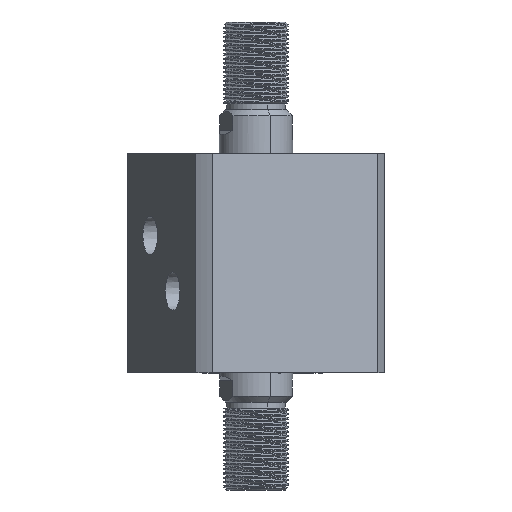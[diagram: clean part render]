
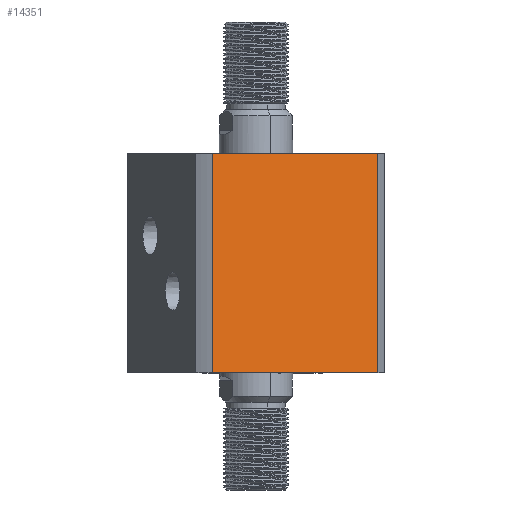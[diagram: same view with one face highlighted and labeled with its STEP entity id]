
A CAD part, front view. The second image highlights one B-rep face of the part: STEP entity #14351.
In plain terms, the highlighted planar face has unit normal (0.383, -0.924, 0) as drawn and (1, 0, 0) by its records, which use the part's own axes.
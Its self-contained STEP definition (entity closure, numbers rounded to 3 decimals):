
#12 = AXIS2_PLACEMENT_3D ( 'NONE', #17455, #1245, #10707 ) ;
#116 = CARTESIAN_POINT ( 'NONE',  ( 35., 30.615, 75. ) ) ;
#965 = DIRECTION ( 'NONE',  ( 0., 0., 1. ) ) ;
#1097 = VECTOR ( 'NONE', #1145, 1000. ) ;
#1145 = DIRECTION ( 'NONE',  ( 0., 0., -1. ) ) ;
#1245 = DIRECTION ( 'NONE',  ( -1., 0., 0. ) ) ;
#2137 = FACE_OUTER_BOUND ( 'NONE', #15585, .T. ) ;
#2146 = CARTESIAN_POINT ( 'NONE',  ( 35., 30.615, 0. ) ) ;
#2453 = EDGE_CURVE ( 'NONE', #15192, #11756, #8265, .T. ) ;
#3029 = VECTOR ( 'NONE', #965, 1000. ) ;
#3264 = EDGE_CURVE ( 'NONE', #16832, #9929, #13800, .T. ) ;
#3843 = VECTOR ( 'NONE', #11938, 1000. ) ;
#4309 = ORIENTED_EDGE ( 'NONE', *, *, #12859, .T. ) ;
#5252 = PLANE ( 'NONE',  #12 ) ;
#5419 = DIRECTION ( 'NONE',  ( 0., 1., 0. ) ) ;
#8054 = EDGE_CURVE ( 'NONE', #9929, #15192, #16448, .T. ) ;
#8120 = CARTESIAN_POINT ( 'NONE',  ( 35., 35., 75. ) ) ;
#8265 = LINE ( 'NONE', #9231, #1097 ) ;
#8811 = VECTOR ( 'NONE', #5419, 1000. ) ;
#9052 = CARTESIAN_POINT ( 'NONE',  ( 35., -30.615, -225. ) ) ;
#9231 = CARTESIAN_POINT ( 'NONE',  ( 35., 30.615, -225. ) ) ;
#9374 = ORIENTED_EDGE ( 'NONE', *, *, #3264, .F. ) ;
#9727 = CARTESIAN_POINT ( 'NONE',  ( 35., -30.615, 0. ) ) ;
#9929 = VERTEX_POINT ( 'NONE', #14084 ) ;
#10707 = DIRECTION ( 'NONE',  ( 0., -1., 0. ) ) ;
#11756 = VERTEX_POINT ( 'NONE', #2146 ) ;
#11938 = DIRECTION ( 'NONE',  ( 0., 1., 0. ) ) ;
#12859 = EDGE_CURVE ( 'NONE', #16832, #11756, #14207, .T. ) ;
#13278 = CARTESIAN_POINT ( 'NONE',  ( 35., 35., 0. ) ) ;
#13800 = LINE ( 'NONE', #9052, #3029 ) ;
#14084 = CARTESIAN_POINT ( 'NONE',  ( 35., -30.615, 75. ) ) ;
#14207 = LINE ( 'NONE', #13278, #3843 ) ;
#14351 = ADVANCED_FACE ( 'NONE', ( #2137 ), #5252, .F. ) ;
#14931 = ORIENTED_EDGE ( 'NONE', *, *, #2453, .F. ) ;
#15192 = VERTEX_POINT ( 'NONE', #116 ) ;
#15585 = EDGE_LOOP ( 'NONE', ( #9374, #4309, #14931, #16454 ) ) ;
#16448 = LINE ( 'NONE', #8120, #8811 ) ;
#16454 = ORIENTED_EDGE ( 'NONE', *, *, #8054, .F. ) ;
#16832 = VERTEX_POINT ( 'NONE', #9727 ) ;
#17455 = CARTESIAN_POINT ( 'NONE',  ( 35., 35., 75. ) ) ;
